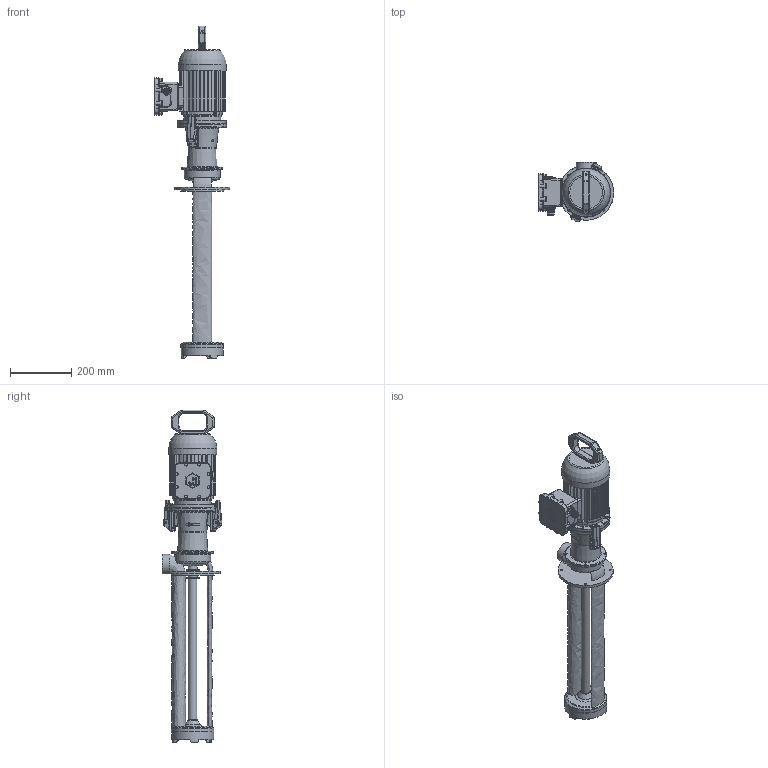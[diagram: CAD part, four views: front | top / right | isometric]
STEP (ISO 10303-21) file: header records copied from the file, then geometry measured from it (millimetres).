
FILE_DESCRIPTION(/* description */ ('Unknown'),/* implementation_level */ '2;1');
FILE_NAME(/* name */ 'EP EX 350-550',/* time_stamp */ '2025-06-02T13:18:47+03:00',/* author */ ('Unknown'),/* organization */ ('Unknown'),/* preprocessor_version */ 'ST-DEVELOPER v16.7',/* originating_system */ 'DEX',/* authorisation */ $);
FILE_SCHEMA (('AUTOMOTIVE_DESIGN {1 0 10303 214 3 1 1}'));
Length unit declared in the file: millimetre
Products named in the file (1): EP EX 350-550
Bounding box: 246.5 x 195.43 x 1086.45 mm (x, y, z)
Volume: 8762220.5 mm3; surface area: 830447.2 mm2
Topology: 1 solids, 22 shells, 2297 faces, 6059 edges, 3780 vertices
Faces by surface type: cylinder 802, plane 730, bspline 404, torus 201, cone 113, sphere 47
Full cylindrical faces by diameter (mm): 3 x12, 3.242 x16, 4 x10, 4.134 x24, 4.9 x4, 5 x90, 5.3 x4, 5.5 x2, 5.7 x8, 6 x8, 7 x8, 8 x3, 9.5 x8, 12 x1, 13 x2, 13.962 x1, 16 x1, 18.348 x1, 18.376 x5, 19 x1, 20 x2, 21.8 x2, 28 x1, 29 x3, 30 x1, 42 x3, 44 x1, 48 x1, 62 x1, 73 x1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
Entity records: 109777 total; most frequent: CARTESIAN_POINT 43445, ORIENTED_EDGE 10866, DIRECTION 9982, EDGE_CURVE 5433, AXIS2_PLACEMENT_3D 4017, VERTEX_POINT 3586, FACE_BOUND 2697, EDGE_LOOP 2689
